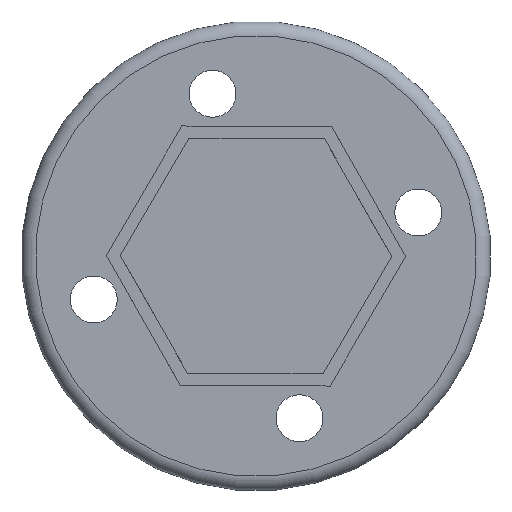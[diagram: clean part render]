
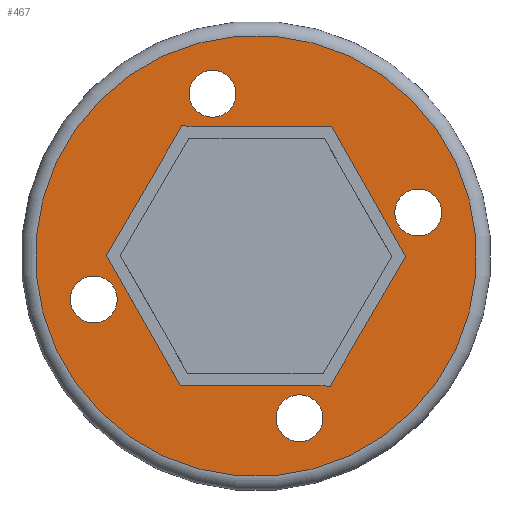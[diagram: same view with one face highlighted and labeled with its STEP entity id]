
A CAD part, front view. The second image highlights one B-rep face of the part: STEP entity #467.
In plain terms, the highlighted planar face has unit normal (0, -1, 0).
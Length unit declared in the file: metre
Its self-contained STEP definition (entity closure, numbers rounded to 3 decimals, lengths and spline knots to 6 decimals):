
#24=LINE('',#713,#60);
#25=LINE('',#716,#61);
#26=LINE('',#718,#62);
#27=LINE('',#720,#63);
#28=LINE('',#722,#64);
#29=LINE('',#724,#65);
#60=VECTOR('',#575,1.);
#61=VECTOR('',#576,1.);
#62=VECTOR('',#577,1.);
#63=VECTOR('',#578,1.);
#64=VECTOR('',#579,1.);
#65=VECTOR('',#580,1.);
#96=ORIENTED_EDGE('',*,*,#210,.T.);
#97=ORIENTED_EDGE('',*,*,#211,.T.);
#98=ORIENTED_EDGE('',*,*,#212,.T.);
#99=ORIENTED_EDGE('',*,*,#213,.T.);
#100=ORIENTED_EDGE('',*,*,#214,.T.);
#101=ORIENTED_EDGE('',*,*,#215,.F.);
#102=ORIENTED_EDGE('',*,*,#216,.F.);
#103=ORIENTED_EDGE('',*,*,#217,.F.);
#104=ORIENTED_EDGE('',*,*,#218,.F.);
#105=ORIENTED_EDGE('',*,*,#219,.F.);
#106=ORIENTED_EDGE('',*,*,#220,.F.);
#210=EDGE_CURVE('',#267,#267,#312,.T.);
#211=EDGE_CURVE('',#268,#268,#313,.T.);
#212=EDGE_CURVE('',#269,#269,#314,.T.);
#213=EDGE_CURVE('',#270,#270,#315,.T.);
#214=EDGE_CURVE('',#271,#271,#316,.F.);
#215=EDGE_CURVE('',#272,#273,#24,.T.);
#216=EDGE_CURVE('',#274,#272,#25,.T.);
#217=EDGE_CURVE('',#275,#274,#26,.T.);
#218=EDGE_CURVE('',#276,#275,#27,.T.);
#219=EDGE_CURVE('',#277,#276,#28,.T.);
#220=EDGE_CURVE('',#273,#277,#29,.T.);
#267=VERTEX_POINT('',#704);
#268=VERTEX_POINT('',#706);
#269=VERTEX_POINT('',#708);
#270=VERTEX_POINT('',#710);
#271=VERTEX_POINT('',#712);
#272=VERTEX_POINT('',#714);
#273=VERTEX_POINT('',#715);
#274=VERTEX_POINT('',#717);
#275=VERTEX_POINT('',#719);
#276=VERTEX_POINT('',#721);
#277=VERTEX_POINT('',#723);
#312=CIRCLE('',#511,0.000979);
#313=CIRCLE('',#512,0.000979);
#314=CIRCLE('',#513,0.000979);
#315=CIRCLE('',#514,0.000979);
#316=CIRCLE('',#515,0.009189);
#333=EDGE_LOOP('',(#96));
#334=EDGE_LOOP('',(#97));
#335=EDGE_LOOP('',(#98));
#336=EDGE_LOOP('',(#99));
#337=EDGE_LOOP('',(#100));
#338=EDGE_LOOP('',(#101,#102,#103,#104,#105,#106));
#391=FACE_BOUND('',#333,.T.);
#392=FACE_BOUND('',#334,.T.);
#393=FACE_BOUND('',#335,.T.);
#394=FACE_BOUND('',#336,.T.);
#395=FACE_BOUND('',#337,.T.);
#396=FACE_BOUND('',#338,.T.);
#449=PLANE('',#510);
#467=ADVANCED_FACE('',(#391,#392,#393,#394,#395,#396),#449,.F.);
#510=AXIS2_PLACEMENT_3D('',#702,#563,#564);
#511=AXIS2_PLACEMENT_3D('',#703,#565,#566);
#512=AXIS2_PLACEMENT_3D('',#705,#567,#568);
#513=AXIS2_PLACEMENT_3D('',#707,#569,#570);
#514=AXIS2_PLACEMENT_3D('',#709,#571,#572);
#515=AXIS2_PLACEMENT_3D('',#711,#573,#574);
#563=DIRECTION('',(0.,1.,0.));
#564=DIRECTION('',(-0.259,0.,0.966));
#565=DIRECTION('',(0.,1.,0.));
#566=DIRECTION('',(-0.259,0.,0.966));
#567=DIRECTION('',(0.,1.,0.));
#568=DIRECTION('',(-0.259,0.,0.966));
#569=DIRECTION('',(0.,1.,0.));
#570=DIRECTION('',(-0.259,0.,0.966));
#571=DIRECTION('',(0.,1.,0.));
#572=DIRECTION('',(-0.259,0.,0.966));
#573=DIRECTION('',(0.,1.,0.));
#574=DIRECTION('',(-0.259,0.,0.966));
#575=DIRECTION('',(-0.495,0.,0.869));
#576=DIRECTION('',(0.505,0.,0.863));
#577=DIRECTION('',(1.,0.,-0.006));
#578=DIRECTION('',(0.495,0.,-0.869));
#579=DIRECTION('',(-0.505,0.,-0.863));
#580=DIRECTION('',(-1.,0.,0.006));
#702=CARTESIAN_POINT('',(-0.007207,0.0251,0.007066));
#703=CARTESIAN_POINT('',(-0.013968,0.0251,0.005255));
#704=CARTESIAN_POINT('',(-0.014222,0.0251,0.0062));
#705=CARTESIAN_POINT('',(-0.009019,0.0251,0.013828));
#706=CARTESIAN_POINT('',(-0.009272,0.0251,0.014773));
#707=CARTESIAN_POINT('',(-0.000445,0.0251,0.008878));
#708=CARTESIAN_POINT('',(-0.000699,0.0251,0.009824));
#709=CARTESIAN_POINT('',(-0.005395,0.0251,0.000305));
#710=CARTESIAN_POINT('',(-0.005648,0.0251,0.00125));
#711=CARTESIAN_POINT('',(-0.007207,0.0251,0.007066));
#712=CARTESIAN_POINT('',(-0.009585,0.0251,0.015942));
#713=CARTESIAN_POINT('',(-0.002514,0.0251,0.009738));
#714=CARTESIAN_POINT('',(-0.000972,0.0251,0.007029));
#715=CARTESIAN_POINT('',(-0.004057,0.0251,0.012447));
#716=CARTESIAN_POINT('',(-0.002547,0.0251,0.004338));
#717=CARTESIAN_POINT('',(-0.004122,0.0251,0.001648));
#718=CARTESIAN_POINT('',(-0.007239,0.0251,0.001666));
#719=CARTESIAN_POINT('',(-0.010357,0.0251,0.001685));
#720=CARTESIAN_POINT('',(-0.011899,0.0251,0.004394));
#721=CARTESIAN_POINT('',(-0.013442,0.0251,0.007104));
#722=CARTESIAN_POINT('',(-0.011867,0.0251,0.009794));
#723=CARTESIAN_POINT('',(-0.010292,0.0251,0.012485));
#724=CARTESIAN_POINT('',(-0.007174,0.0251,0.012466));
